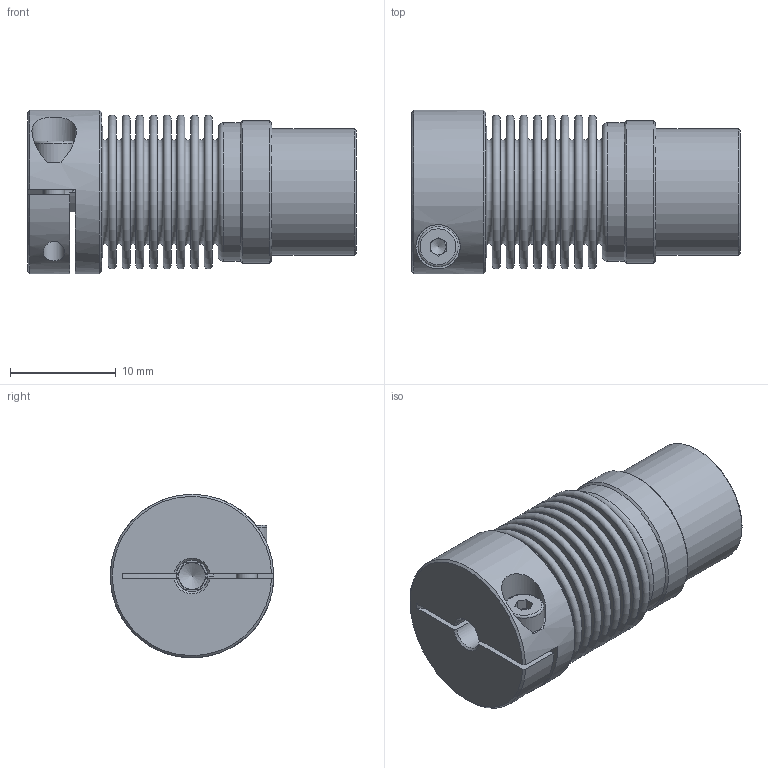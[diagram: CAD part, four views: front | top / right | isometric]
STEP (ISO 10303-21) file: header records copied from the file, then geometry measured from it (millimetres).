
FILE_DESCRIPTION( ( 'Unknown' ), '1' );
FILE_NAME( 'K:/Konstruktion/cad kunden/3D - Daten/KB3/KB3-5-24.stp', 'Unknown', ( 'Unknown' ), ( 'Unknown' ), 'PSStep 16.0.42', 'Unknown', ' ' );
FILE_SCHEMA( ( 'AUTOMOTIVE_DESIGN { 1 0 10303 214 1 1 1 1 }' ) );
Length unit declared in the file: millimetre
Products named in the file (6): Assem1; BM5_Standard_0; Socket Head Cap Screw_DIN_DIN 912 M2 x 8 --- 8N_5; Socket Head Cap Screw_DIN_DIN 912 M3 x 10 --- 10N_4; KN5_Standard_2; SN5-10
Assembly tree (5 placements, depth 2):
  Assem1
    BM5_Standard_0
    Socket Head Cap Screw_DIN_DIN 912 M2 x 8 --- 8N_5
    Socket Head Cap Screw_DIN_DIN 912 M3 x 10 --- 10N_4
    KN5_Standard_2
    SN5-10
Bounding box: 31.15 x 15.5 x 15.5 mm (x, y, z)
Volume: 3037.1 mm3; surface area: 6122 mm2
Topology: 5 solids, 5 shells, 157 faces, 299 edges, 192 vertices
Faces by surface type: plane 83, torus 42, cylinder 20, cone 12
Full cylindrical faces by diameter (mm): 2 x2, 2.2 x1, 2.5 x1, 3 x2, 3.8 x1, 5.5 x1, 12 x1, 12.9 x3, 13.1 x2, 13.5 x1, 15.5 x1
Entity records: 5086 total; most frequent: CARTESIAN_POINT 695, DIRECTION 678, ORIENTED_EDGE 442, AXIS2_PLACEMENT_3D 304, EDGE_LOOP 274, EDGE_CURVE 221, FACE_OUTER_BOUND 215, VERTEX_POINT 199
